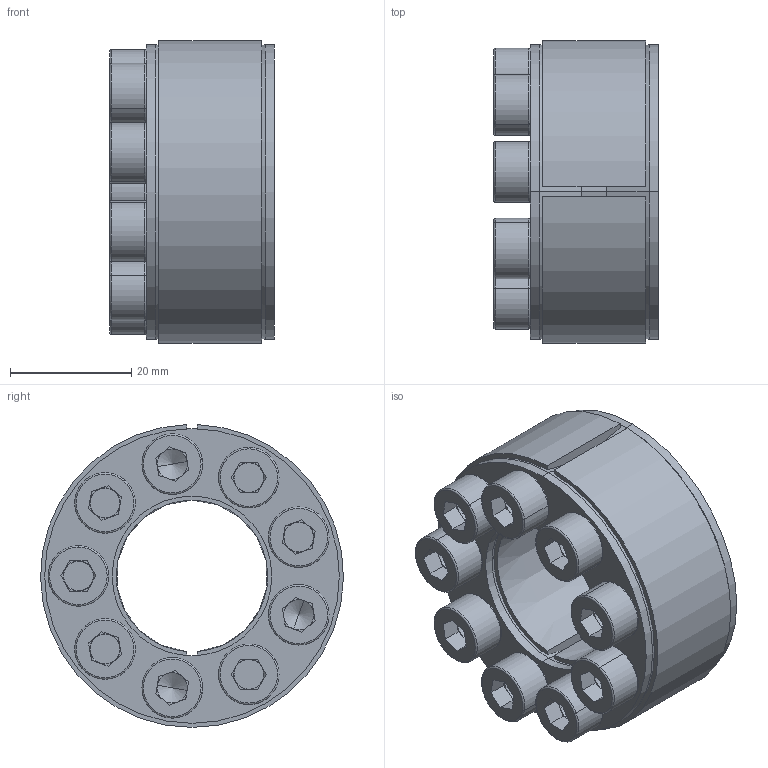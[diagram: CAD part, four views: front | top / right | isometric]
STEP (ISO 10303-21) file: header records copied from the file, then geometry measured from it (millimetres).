
FILE_DESCRIPTION (( 'STEP AP203' ), '1' );
FILE_NAME ('D1-25-50 Assy.STEP', '2017-10-11T03:17:09', ( 'MYCOM' ), ( '' ), 'SwSTEP 2.0', 'SolidWorks 2015', '' );
FILE_SCHEMA (( 'CONFIG_CONTROL_DESIGN' ));
Length unit declared in the file: millimetre
Products named in the file (1): D1-25-50 Assy
Bounding box: 27.14 x 49.99 x 49.99 mm (x, y, z)
Surface area: 15231.9 mm2 (no closed solid volume)
Topology: 0 solids, 22 shells, 265 faces, 645 edges, 395 vertices
Faces by surface type: plane 132, cylinder 63, torus 36, cone 34
Entity records: 7768 total; most frequent: DIRECTION 1465, CARTESIAN_POINT 1357, ORIENTED_EDGE 1158, EDGE_CURVE 639, AXIS2_PLACEMENT_3D 570, VERTEX_POINT 395, VECTOR 325, LINE 325
